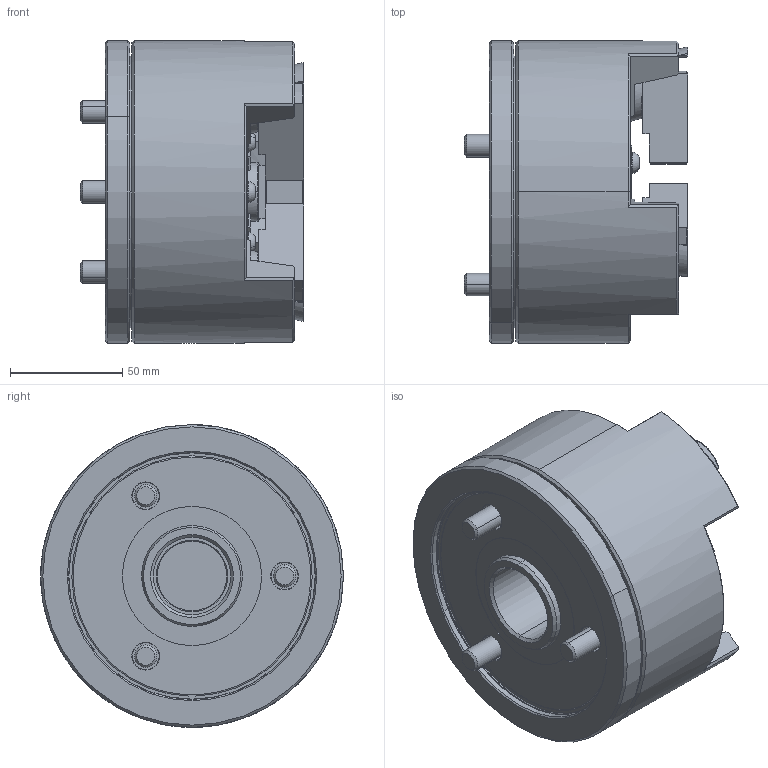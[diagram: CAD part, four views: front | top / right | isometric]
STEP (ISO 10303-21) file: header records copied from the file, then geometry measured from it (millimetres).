
FILE_DESCRIPTION (( 'STEP AP214' ), '1' );
FILE_NAME ('dummy_CL1.STEP', '2024-10-18T02:20:11', ( '' ), ( '' ), 'SwSTEP 2.0', 'SolidWorks 2022', '' );
FILE_SCHEMA (( 'AUTOMOTIVE_DESIGN' ));
Length unit declared in the file: millimetre
Products named in the file (4): 61P340355; DHP-61P298380-0dummy; 0030108020; dummy_CL1
Assembly tree (7 placements, depth 2):
  dummy_CL1
    61P340355  x3
    0030108020  x3
    DHP-61P298380-0dummy
Bounding box: 99.5 x 135 x 135 mm (x, y, z)
Volume: 909869.9 mm3; surface area: 115278 mm2
Topology: 8 solids, 9 shells, 947 faces, 2424 edges, 1550 vertices
Faces by surface type: plane 440, bspline 173, cone 170, cylinder 143, torus 19, sphere 2
Entity records: 38010 total; most frequent: CARTESIAN_POINT 18399, ORIENTED_EDGE 4412, DIRECTION 3300, EDGE_CURVE 2206, VERTEX_POINT 1424, LINE 1110, VECTOR 1110, AXIS2_PLACEMENT_3D 1095
